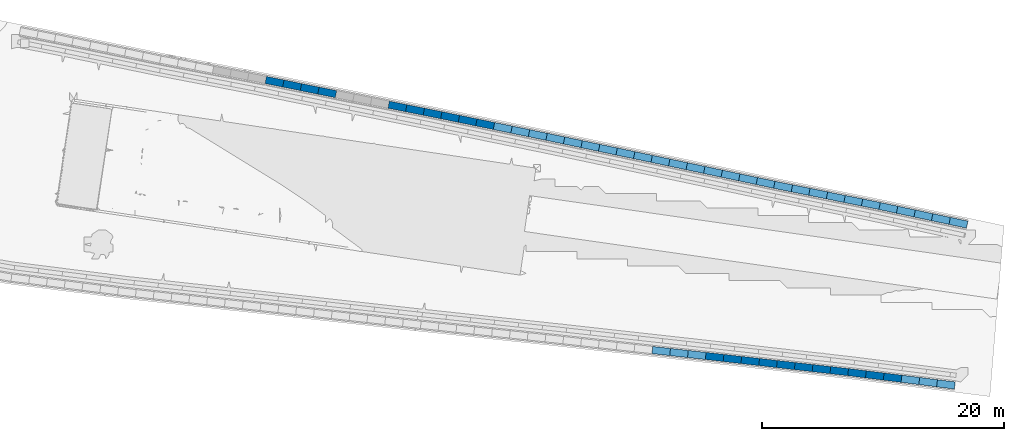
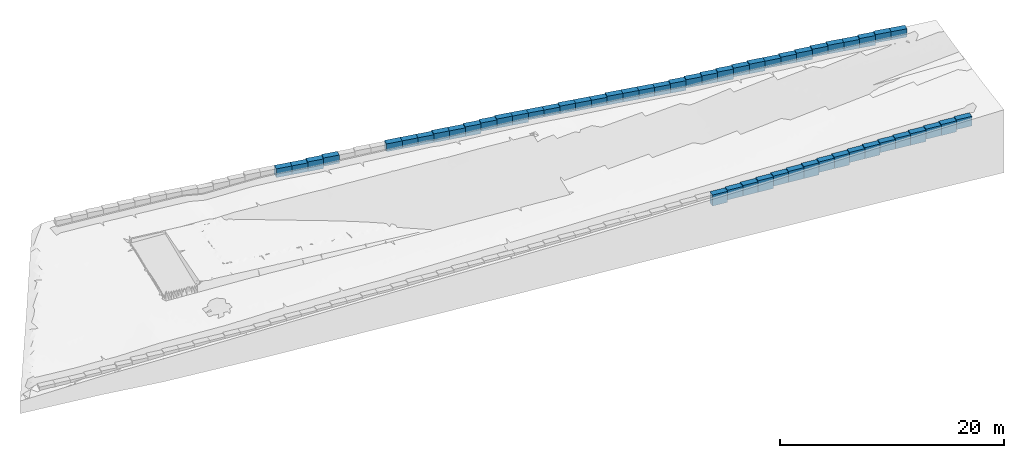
# Not in any storey, part 4 of 7: 54 walls.
"""IFC4 model written with IfcOpenShell, lengths in metres."""

from ifc_helpers import new_model, si_unit, direction, frame, origin_with_axes, place, context, subcontext, project, spatial, polyline, outline, extrude, material, element, save


model = new_model("IFC4")

# Units and contexts
model_context = context("Model", 3, precision=1e-05, world=origin_with_axes(), true_north=direction((0.0, 1.0)))
body_context = subcontext(model_context, "Body", "Model", "MODEL_VIEW")
ifc_project = project(units=[si_unit("VOLUMEUNIT", "CUBIC_METRE"), si_unit("LENGTHUNIT", "METRE"), si_unit("AREAUNIT", "SQUARE_METRE")], contexts=[model_context])

# Site
site_placement = place(None, origin_with_axes())
site = spatial("IfcSite", under=ifc_project, at=site_placement, Name="Lares · Rua das Mercês · artigo 4771")

# Walls
ifc_material = material(Name="Pedra natural · contenção conceptual", Category="stone")
wall_1_placement = place(site_placement, frame((0.0, 0.0, 13.75), z_axis=(0.0, 0.0, 1.0), x_axis=(1.0, -1.03767253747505e-17, 0.0)))
element("IfcWall", 1, at=wall_1_placement, inside=site, material=ifc_material, Name="Limite north · pedra 15", ObjectType="CONCEPT_STONE_RETAINING_EDGE", PredefinedType="USERDEFINED", context=body_context, shape_type="SweptSolid", body=[
    extrude(outline(polyline([(24.2510926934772, 19.6590356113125), (24.1319491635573, 19.0709838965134), (22.6789282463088, 19.3653764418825), (22.7980717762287, 19.9534281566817), (24.2510926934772, 19.6590356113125)])), origin_with_axes(), (0.0, 0.0, 1.0), 0.950000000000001),
])
wall_2_placement = place(site_placement, frame((0.0, 0.0, 13.75), z_axis=(0.0, 0.0, 1.0), x_axis=(1.0, -1.03767253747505e-17, 0.0)))
element("IfcWall", 2, at=wall_2_placement, inside=site, material=ifc_material, Name="Limite north · pedra 16", ObjectType="CONCEPT_STONE_RETAINING_EDGE", PredefinedType="USERDEFINED", context=body_context, shape_type="SweptSolid", body=[
    extrude(outline(polyline([(25.7041136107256, 19.3646430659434), (25.5849700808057, 18.7765913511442), (24.1319491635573, 19.0709838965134), (24.2510926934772, 19.6590356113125), (25.7041136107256, 19.3646430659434)])), origin_with_axes(), (0.0, 0.0, 1.0), 0.950000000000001),
])
wall_3_placement = place(site_placement, frame((0.0, 0.0, 13.75), z_axis=(0.0, 0.0, 1.0), x_axis=(1.0, -1.03767253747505e-17, 0.0)))
element("IfcWall", 3, at=wall_3_placement, inside=site, material=ifc_material, Name="Limite north · pedra 17", ObjectType="CONCEPT_STONE_RETAINING_EDGE", PredefinedType="USERDEFINED", context=body_context, shape_type="SweptSolid", body=[
    extrude(outline(polyline([(27.1571345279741, 19.0702505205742), (27.0379909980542, 18.4821988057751), (25.5849700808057, 18.7765913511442), (25.7041136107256, 19.3646430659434), (27.1571345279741, 19.0702505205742)])), origin_with_axes(), (0.0, 0.0, 1.0), 1.05),
])
wall_4_placement = place(site_placement, frame((0.0, 0.0, 14.0), z_axis=(0.0, 0.0, 1.0), x_axis=(1.0, -1.03767253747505e-17, 0.0)))
element("IfcWall", 4, at=wall_4_placement, inside=site, material=ifc_material, Name="Limite north · pedra 18", ObjectType="CONCEPT_STONE_RETAINING_EDGE", PredefinedType="USERDEFINED", context=body_context, shape_type="SweptSolid", body=[
    extrude(outline(polyline([(27.7664225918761, 18.9468043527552), (28.6097837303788, 18.7785527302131), (28.4923962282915, 18.1901479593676), (27.6485959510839, 18.3584871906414), (27.6477179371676, 18.3586637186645), (27.0379909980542, 18.4821988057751), (27.1571345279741, 19.0702505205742), (27.7664225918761, 18.9468043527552)])), origin_with_axes(), (0.0, 0.0, 1.0), 0.9),
])
wall_5_placement = place(site_placement, frame((0.0, 0.0, 14.25), z_axis=(0.0, 0.0, 1.0), x_axis=(1.0, -1.03767253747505e-17, 0.0)))
element("IfcWall", 5, at=wall_5_placement, inside=site, material=ifc_material, Name="Limite north · pedra 22", ObjectType="CONCEPT_STONE_RETAINING_EDGE", PredefinedType="USERDEFINED", context=body_context, shape_type="SweptSolid", body=[
    extrude(outline(polyline([(34.4253568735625, 17.6183384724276), (34.3079693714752, 17.0299337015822), (32.8540760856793, 17.3199872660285), (32.9714635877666, 17.908392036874), (34.4253568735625, 17.6183384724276)])), origin_with_axes(), (0.0, 0.0, 1.0), 0.850000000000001),
])
wall_6_placement = place(site_placement, frame((0.0, 0.0, 14.25), z_axis=(0.0, 0.0, 1.0), x_axis=(1.0, -1.03767253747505e-17, 0.0)))
element("IfcWall", 6, at=wall_6_placement, inside=site, material=ifc_material, Name="Limite north · pedra 23", ObjectType="CONCEPT_STONE_RETAINING_EDGE", PredefinedType="USERDEFINED", context=body_context, shape_type="SweptSolid", body=[
    extrude(outline(polyline([(35.8792501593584, 17.3282849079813), (35.7618626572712, 16.7398801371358), (34.3079693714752, 17.0299337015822), (34.4253568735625, 17.6183384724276), (35.8792501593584, 17.3282849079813)])), origin_with_axes(), (0.0, 0.0, 1.0), 0.850000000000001),
])
wall_7_placement = place(site_placement, frame((0.0, 0.0, 14.25), z_axis=(0.0, 0.0, 1.0), x_axis=(1.0, -1.03767253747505e-17, 0.0)))
element("IfcWall", 7, at=wall_7_placement, inside=site, material=ifc_material, Name="Limite north · pedra 24", ObjectType="CONCEPT_STONE_RETAINING_EDGE", PredefinedType="USERDEFINED", context=body_context, shape_type="SweptSolid", body=[
    extrude(outline(polyline([(36.58792841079, 17.1869026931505), (36.5894114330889, 17.1866029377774), (37.3338671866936, 17.0341750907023), (37.2135136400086, 16.4463698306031), (36.4697990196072, 16.5986459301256), (35.7618626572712, 16.7398801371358), (35.8792501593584, 17.3282849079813), (36.58792841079, 17.1869026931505)])), origin_with_axes(), (0.0, 0.0, 1.0), 0.850000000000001),
])
wall_8_placement = place(site_placement, frame((0.0, 0.0, 14.25), z_axis=(0.0, 0.0, 1.0), x_axis=(1.0, -1.03767253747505e-17, 0.0)))
element("IfcWall", 8, at=wall_8_placement, inside=site, material=ifc_material, Name="Limite north · pedra 25", ObjectType="CONCEPT_STONE_RETAINING_EDGE", PredefinedType="USERDEFINED", context=body_context, shape_type="SweptSolid", body=[
    extrude(outline(polyline([(38.7862791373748, 16.7367927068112), (38.6659255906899, 16.1489874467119), (37.2135136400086, 16.4463698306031), (37.3338671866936, 17.0341750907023), (38.7862791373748, 16.7367927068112)])), origin_with_axes(), (0.0, 0.0, 1.0), 0.950000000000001),
])
wall_9_placement = place(site_placement, frame((0.0, 0.0, 14.25), z_axis=(0.0, 0.0, 1.0), x_axis=(1.0, -1.03767253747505e-17, 0.0)))
element("IfcWall", 9, at=wall_9_placement, inside=site, material=ifc_material, Name="Limite north · pedra 26", ObjectType="CONCEPT_STONE_RETAINING_EDGE", PredefinedType="USERDEFINED", context=body_context, shape_type="SweptSolid", body=[
    extrude(outline(polyline([(40.2386910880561, 16.43941032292), (40.1183375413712, 15.8516050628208), (38.6659255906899, 16.1489874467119), (38.7862791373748, 16.7367927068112), (40.2386910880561, 16.43941032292)])), origin_with_axes(), (0.0, 0.0, 1.0), 0.950000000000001),
])
wall_10_placement = place(site_placement, frame((0.0, 0.0, 14.25), z_axis=(0.0, 0.0, 1.0), x_axis=(1.0, -1.03767253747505e-17, 0.0)))
element("IfcWall", 10, at=wall_10_placement, inside=site, material=ifc_material, Name="Limite north · pedra 27", ObjectType="CONCEPT_STONE_RETAINING_EDGE", PredefinedType="USERDEFINED", context=body_context, shape_type="SweptSolid", body=[
    extrude(outline(polyline([(41.6911030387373, 16.1420279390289), (41.5707494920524, 15.5542226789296), (40.1183375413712, 15.8516050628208), (40.2386910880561, 16.43941032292), (41.6911030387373, 16.1420279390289)])), origin_with_axes(), (0.0, 0.0, 1.0), 1.05),
])
wall_11_placement = place(site_placement, frame((0.0, 0.0, 14.5), z_axis=(0.0, 0.0, 1.0), x_axis=(1.0, -1.03767253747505e-17, 0.0)))
element("IfcWall", 11, at=wall_11_placement, inside=site, material=ifc_material, Name="Limite north · pedra 28", ObjectType="CONCEPT_STONE_RETAINING_EDGE", PredefinedType="USERDEFINED", context=body_context, shape_type="SweptSolid", body=[
    extrude(outline(polyline([(43.1435149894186, 15.8446455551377), (43.0231614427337, 15.2568402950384), (41.5707494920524, 15.5542226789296), (41.6911030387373, 16.1420279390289), (43.1435149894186, 15.8446455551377)])), origin_with_axes(), (0.0, 0.0, 1.0), 0.9),
])
wall_12_placement = place(site_placement, frame((0.0, 0.0, 14.5), z_axis=(0.0, 0.0, 1.0), x_axis=(1.0, -1.03767253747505e-17, 0.0)))
element("IfcWall", 12, at=wall_12_placement, inside=site, material=ifc_material, Name="Limite north · pedra 29", ObjectType="CONCEPT_STONE_RETAINING_EDGE", PredefinedType="USERDEFINED", context=body_context, shape_type="SweptSolid", body=[
    extrude(outline(polyline([(44.5959269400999, 15.5472631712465), (44.4755733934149, 14.9594579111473), (43.0231614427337, 15.2568402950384), (43.1435149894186, 15.8446455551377), (44.5959269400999, 15.5472631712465)])), origin_with_axes(), (0.0, 0.0, 1.0), 1.0),
])
wall_13_placement = place(site_placement, frame((0.0, 0.0, 14.5), z_axis=(0.0, 0.0, 1.0), x_axis=(1.0, -1.03767253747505e-17, 0.0)))
element("IfcWall", 13, at=wall_13_placement, inside=site, material=ifc_material, Name="Limite north · pedra 30", ObjectType="CONCEPT_STONE_RETAINING_EDGE", PredefinedType="USERDEFINED", context=body_context, shape_type="SweptSolid", body=[
    extrude(outline(polyline([(46.0483388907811, 15.2498807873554), (45.9279853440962, 14.6620755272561), (44.4755733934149, 14.9594579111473), (44.5959269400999, 15.5472631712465), (46.0483388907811, 15.2498807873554)])), origin_with_axes(), (0.0, 0.0, 1.0), 1.0),
])
wall_14_placement = place(site_placement, frame((0.0, 0.0, 14.75), z_axis=(0.0, 0.0, 1.0), x_axis=(1.0, -1.03767253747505e-17, 0.0)))
element("IfcWall", 14, at=wall_14_placement, inside=site, material=ifc_material, Name="Limite north · pedra 31", ObjectType="CONCEPT_STONE_RETAINING_EDGE", PredefinedType="USERDEFINED", context=body_context, shape_type="SweptSolid", body=[
    extrude(outline(polyline([(46.075830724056, 15.2442518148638), (46.0772721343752, 15.2439529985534), (47.5007435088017, 14.9452112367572), (47.3775071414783, 14.3580036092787), (45.9547561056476, 14.6565941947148), (45.9279853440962, 14.6620755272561), (46.0483388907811, 15.2498807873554), (46.075830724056, 15.2442518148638)])), origin_with_axes(), (0.0, 0.0, 1.0), 0.75),
])
wall_15_placement = place(site_placement, frame((0.0, 0.0, 14.75), z_axis=(0.0, 0.0, 1.0), x_axis=(1.0, -1.03767253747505e-17, 0.0)))
element("IfcWall", 15, at=wall_15_placement, inside=site, material=ifc_material, Name="Limite north · pedra 32", ObjectType="CONCEPT_STONE_RETAINING_EDGE", PredefinedType="USERDEFINED", context=body_context, shape_type="SweptSolid", body=[
    extrude(outline(polyline([(48.951678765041, 14.6407056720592), (48.8284423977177, 14.0534980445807), (47.3775071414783, 14.3580036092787), (47.5007435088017, 14.9452112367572), (48.951678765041, 14.6407056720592)])), origin_with_axes(), (0.0, 0.0, 1.0), 0.75),
])
wall_16_placement = place(site_placement, frame((0.0, 0.0, 14.75), z_axis=(0.0, 0.0, 1.0), x_axis=(1.0, -1.03767253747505e-17, 0.0)))
element("IfcWall", 16, at=wall_16_placement, inside=site, material=ifc_material, Name="Limite north · pedra 33", ObjectType="CONCEPT_STONE_RETAINING_EDGE", PredefinedType="USERDEFINED", context=body_context, shape_type="SweptSolid", body=[
    extrude(outline(polyline([(50.4026140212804, 14.3362001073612), (50.2793776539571, 13.7489924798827), (48.8284423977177, 14.0534980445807), (48.951678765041, 14.6407056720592), (50.4026140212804, 14.3362001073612)])), origin_with_axes(), (0.0, 0.0, 1.0), 0.850000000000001),
])
wall_17_placement = place(site_placement, frame((0.0, 0.0, 14.75), z_axis=(0.0, 0.0, 1.0), x_axis=(1.0, -1.03767253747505e-17, 0.0)))
element("IfcWall", 17, at=wall_17_placement, inside=site, material=ifc_material, Name="Limite north · pedra 34", ObjectType="CONCEPT_STONE_RETAINING_EDGE", PredefinedType="USERDEFINED", context=body_context, shape_type="SweptSolid", body=[
    extrude(outline(polyline([(51.8535492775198, 14.0316945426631), (51.7303129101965, 13.4444869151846), (50.2793776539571, 13.7489924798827), (50.4026140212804, 14.3362001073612), (51.8535492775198, 14.0316945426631)])), origin_with_axes(), (0.0, 0.0, 1.0), 0.850000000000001),
])
wall_18_placement = place(site_placement, frame((0.0, 0.0, 14.75), z_axis=(0.0, 0.0, 1.0), x_axis=(1.0, -1.03767253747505e-17, 0.0)))
element("IfcWall", 18, at=wall_18_placement, inside=site, material=ifc_material, Name="Limite north · pedra 35", ObjectType="CONCEPT_STONE_RETAINING_EDGE", PredefinedType="USERDEFINED", context=body_context, shape_type="SweptSolid", body=[
    extrude(outline(polyline([(53.3044845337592, 13.7271889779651), (53.1812481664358, 13.1399813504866), (51.7303129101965, 13.4444869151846), (51.8535492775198, 14.0316945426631), (53.3044845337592, 13.7271889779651)])), origin_with_axes(), (0.0, 0.0, 1.0), 0.850000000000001),
])
wall_19_placement = place(site_placement, frame((0.0, 0.0, 14.75), z_axis=(0.0, 0.0, 1.0), x_axis=(1.0, -1.03767253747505e-17, 0.0)))
element("IfcWall", 19, at=wall_19_placement, inside=site, material=ifc_material, Name="Limite north · pedra 36", ObjectType="CONCEPT_STONE_RETAINING_EDGE", PredefinedType="USERDEFINED", context=body_context, shape_type="SweptSolid", body=[
    extrude(outline(polyline([(54.7554197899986, 13.4226834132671), (54.6321834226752, 12.8354757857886), (53.1812481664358, 13.1399813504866), (53.3044845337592, 13.7271889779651), (54.7554197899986, 13.4226834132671)])), origin_with_axes(), (0.0, 0.0, 1.0), 0.950000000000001),
])
wall_20_placement = place(site_placement, frame((0.0, 0.0, 14.75), z_axis=(0.0, 0.0, 1.0), x_axis=(1.0, -1.03767253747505e-17, 0.0)))
element("IfcWall", 20, at=wall_20_placement, inside=site, material=ifc_material, Name="Limite north · pedra 37", ObjectType="CONCEPT_STONE_RETAINING_EDGE", PredefinedType="USERDEFINED", context=body_context, shape_type="SweptSolid", body=[
    extrude(outline(polyline([(56.206355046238, 13.1181778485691), (56.0831186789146, 12.5309702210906), (54.6321834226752, 12.8354757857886), (54.7554197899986, 13.4226834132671), (56.206355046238, 13.1181778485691)])), origin_with_axes(), (0.0, 0.0, 1.0), 0.950000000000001),
])
wall_21_placement = place(site_placement, frame((0.0, 0.0, 14.75), z_axis=(0.0, 0.0, 1.0), x_axis=(1.0, -1.03767253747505e-17, 0.0)))
element("IfcWall", 21, at=wall_21_placement, inside=site, material=ifc_material, Name="Limite north · pedra 38", ObjectType="CONCEPT_STONE_RETAINING_EDGE", PredefinedType="USERDEFINED", context=body_context, shape_type="SweptSolid", body=[
    extrude(outline(polyline([(56.4763380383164, 13.0615169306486), (56.4767890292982, 13.0614219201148), (57.6573591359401, 12.8117632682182), (57.5332207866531, 12.2247456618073), (56.3528761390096, 12.4743566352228), (56.0831186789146, 12.5309702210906), (56.206355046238, 13.1181778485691), (56.4763380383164, 13.0615169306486)])), origin_with_axes(), (0.0, 0.0, 1.0), 0.950000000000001),
])
wall_22_placement = place(site_placement, frame((0.0, 0.0, 14.75), z_axis=(0.0, 0.0, 1.0), x_axis=(1.0, -1.03767253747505e-17, 0.0)))
element("IfcWall", 22, at=wall_22_placement, inside=site, material=ifc_material, Name="Limite north · pedra 39", ObjectType="CONCEPT_STONE_RETAINING_EDGE", PredefinedType="USERDEFINED", context=body_context, shape_type="SweptSolid", body=[
    extrude(outline(polyline([(59.1078248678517, 12.5050289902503), (58.9836865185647, 11.9180113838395), (57.5332207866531, 12.2247456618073), (57.6573591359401, 12.8117632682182), (59.1078248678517, 12.5050289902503)])), origin_with_axes(), (0.0, 0.0, 1.0), 0.950000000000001),
])
wall_23_placement = place(site_placement, frame((0.0, 0.0, 14.75), z_axis=(0.0, 0.0, 1.0), x_axis=(1.0, -1.03767253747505e-17, 0.0)))
element("IfcWall", 23, at=wall_23_placement, inside=site, material=ifc_material, Name="Limite north · pedra 40", ObjectType="CONCEPT_STONE_RETAINING_EDGE", PredefinedType="USERDEFINED", context=body_context, shape_type="SweptSolid", body=[
    extrude(outline(polyline([(60.5582905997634, 12.1982947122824), (60.4341522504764, 11.6112771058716), (58.9836865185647, 11.9180113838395), (59.1078248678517, 12.5050289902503), (60.5582905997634, 12.1982947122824)])), origin_with_axes(), (0.0, 0.0, 1.0), 1.05),
])
wall_24_placement = place(site_placement, frame((0.0, 0.0, 15.0), z_axis=(0.0, 0.0, 1.0), x_axis=(1.0, -1.03767253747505e-17, 0.0)))
element("IfcWall", 24, at=wall_24_placement, inside=site, material=ifc_material, Name="Limite north · pedra 41", ObjectType="CONCEPT_STONE_RETAINING_EDGE", PredefinedType="USERDEFINED", context=body_context, shape_type="SweptSolid", body=[
    extrude(outline(polyline([(62.0087563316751, 11.8915604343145), (61.8846179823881, 11.3045428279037), (60.4341522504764, 11.6112771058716), (60.5582905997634, 12.1982947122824), (62.0087563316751, 11.8915604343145)])), origin_with_axes(), (0.0, 0.0, 1.0), 0.9),
])
wall_25_placement = place(site_placement, frame((0.0, 0.0, 15.0), z_axis=(0.0, 0.0, 1.0), x_axis=(1.0, -1.03767253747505e-17, 0.0)))
element("IfcWall", 25, at=wall_25_placement, inside=site, material=ifc_material, Name="Limite north · pedra 42", ObjectType="CONCEPT_STONE_RETAINING_EDGE", PredefinedType="USERDEFINED", context=body_context, shape_type="SweptSolid", body=[
    extrude(outline(polyline([(63.4592220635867, 11.5848261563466), (63.3350837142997, 10.9978085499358), (61.8846179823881, 11.3045428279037), (62.0087563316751, 11.8915604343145), (63.4592220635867, 11.5848261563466)])), origin_with_axes(), (0.0, 0.0, 1.0), 1.0),
])
wall_26_placement = place(site_placement, frame((0.0, 0.0, 15.0), z_axis=(0.0, 0.0, 1.0), x_axis=(1.0, -1.03767253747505e-17, 0.0)))
element("IfcWall", 26, at=wall_26_placement, inside=site, material=ifc_material, Name="Limite north · pedra 43", ObjectType="CONCEPT_STONE_RETAINING_EDGE", PredefinedType="USERDEFINED", context=body_context, shape_type="SweptSolid", body=[
    extrude(outline(polyline([(64.9096877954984, 11.2780918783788), (64.7855494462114, 10.6910742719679), (63.3350837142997, 10.9978085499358), (63.4592220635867, 11.5848261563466), (64.9096877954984, 11.2780918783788)])), origin_with_axes(), (0.0, 0.0, 1.0), 1.1),
])
wall_27_placement = place(site_placement, frame((0.0, 0.0, 15.25), z_axis=(0.0, 0.0, 1.0), x_axis=(1.0, -1.03767253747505e-17, 0.0)))
element("IfcWall", 27, at=wall_27_placement, inside=site, material=ifc_material, Name="Limite north · pedra 44", ObjectType="CONCEPT_STONE_RETAINING_EDGE", PredefinedType="USERDEFINED", context=body_context, shape_type="SweptSolid", body=[
    extrude(outline(polyline([(65.1675226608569, 11.2235667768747), (66.3597083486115, 10.9831100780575), (66.2410808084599, 10.3949540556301), (65.0475160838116, 10.635688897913), (65.044760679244, 10.6362581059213), (64.7855494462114, 10.6910742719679), (64.9096877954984, 11.2780918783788), (65.1675226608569, 11.2235667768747)])), origin_with_axes(), (0.0, 0.0, 1.0), 0.949999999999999),
])
wall_28_placement = place(site_placement, frame((0.0, 0.0, 15.25), z_axis=(0.0, 0.0, 1.0), x_axis=(1.0, -1.03767253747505e-17, 0.0)))
element("IfcWall", 28, at=wall_28_placement, inside=site, material=ifc_material, Name="Limite north · pedra 45", ObjectType="CONCEPT_STONE_RETAINING_EDGE", PredefinedType="USERDEFINED", context=body_context, shape_type="SweptSolid", body=[
    extrude(outline(polyline([(67.8129870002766, 10.6899924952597), (67.6943594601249, 10.1018364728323), (66.2410808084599, 10.3949540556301), (66.3597083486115, 10.9831100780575), (67.8129870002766, 10.6899924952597)])), origin_with_axes(), (0.0, 0.0, 1.0), 1.05),
])
wall_29_placement = place(site_placement, frame((0.0, 0.0, 15.5), z_axis=(0.0, 0.0, 1.0), x_axis=(1.0, -1.03767253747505e-17, 0.0)))
element("IfcWall", 29, at=wall_29_placement, inside=site, material=ifc_material, Name="Limite north · pedra 46", ObjectType="CONCEPT_STONE_RETAINING_EDGE", PredefinedType="USERDEFINED", context=body_context, shape_type="SweptSolid", body=[
    extrude(outline(polyline([(69.2662656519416, 10.3968749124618), (69.1476381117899, 9.80871889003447), (67.6943594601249, 10.1018364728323), (67.8129870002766, 10.6899924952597), (69.2662656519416, 10.3968749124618)])), origin_with_axes(), (0.0, 0.0, 1.0), 0.800000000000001),
])
wall_30_placement = place(site_placement, frame((0.0, 0.0, 15.5), z_axis=(0.0, 0.0, 1.0), x_axis=(1.0, -1.03767253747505e-17, 0.0)))
element("IfcWall", 30, at=wall_30_placement, inside=site, material=ifc_material, Name="Limite north · pedra 47", ObjectType="CONCEPT_STONE_RETAINING_EDGE", PredefinedType="USERDEFINED", context=body_context, shape_type="SweptSolid", body=[
    extrude(outline(polyline([(70.7195443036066, 10.103757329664), (70.6009167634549, 9.51560130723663), (69.1476381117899, 9.80871889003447), (69.2662656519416, 10.3968749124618), (70.7195443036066, 10.103757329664)])), origin_with_axes(), (0.0, 0.0, 1.0), 0.900000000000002),
])
wall_31_placement = place(site_placement, frame((0.0, 0.0, 15.5), z_axis=(0.0, 0.0, 1.0), x_axis=(1.0, -1.03767253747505e-17, 0.0)))
element("IfcWall", 31, at=wall_31_placement, inside=site, material=ifc_material, Name="Limite north · pedra 48", ObjectType="CONCEPT_STONE_RETAINING_EDGE", PredefinedType="USERDEFINED", context=body_context, shape_type="SweptSolid", body=[
    extrude(outline(polyline([(72.1728229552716, 9.81063974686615), (72.0541954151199, 9.2224837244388), (70.6009167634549, 9.51560130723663), (70.7195443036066, 10.103757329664), (72.1728229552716, 9.81063974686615)])), origin_with_axes(), (0.0, 0.0, 1.0), 1.0),
])
wall_32_placement = place(site_placement, frame((0.0, 0.0, 15.75), z_axis=(0.0, 0.0, 1.0), x_axis=(1.0, -1.03767253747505e-17, 0.0)))
element("IfcWall", 32, at=wall_32_placement, inside=site, material=ifc_material, Name="Limite north · pedra 49", ObjectType="CONCEPT_STONE_RETAINING_EDGE", PredefinedType="USERDEFINED", context=body_context, shape_type="SweptSolid", body=[
    extrude(outline(polyline([(73.4893930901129, 9.54509545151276), (73.4924212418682, 9.54446843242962), (73.6288382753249, 9.515487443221), (73.5041544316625, 8.92858545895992), (73.3692498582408, 8.95724513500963), (72.0541954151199, 9.2224837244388), (72.1728229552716, 9.81063974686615), (73.4893930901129, 9.54509545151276)])), origin_with_axes(), (0.0, 0.0, 1.0), 0.850000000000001),
])
wall_33_placement = place(site_placement, frame((0.0, 0.0, 15.75), z_axis=(0.0, 0.0, 1.0), x_axis=(1.0, -1.03767253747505e-17, 0.0)))
element("IfcWall", 33, at=wall_33_placement, inside=site, material=ifc_material, Name="Limite north · pedra 50", ObjectType="CONCEPT_STONE_RETAINING_EDGE", PredefinedType="USERDEFINED", context=body_context, shape_type="SweptSolid", body=[
    extrude(outline(polyline([(75.079018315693, 9.2074052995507), (74.9543344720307, 8.62050331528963), (73.5041544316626, 8.92858545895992), (73.6288382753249, 9.515487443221), (75.079018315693, 9.2074052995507)])), origin_with_axes(), (0.0, 0.0, 1.0), 0.949999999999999),
])
wall_34_placement = place(site_placement, frame((0.0, 0.0, 15.75), z_axis=(0.0, 0.0, 1.0), x_axis=(1.0, -1.03767253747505e-17, 0.0)))
element("IfcWall", 34, at=wall_34_placement, inside=site, material=ifc_material, Name="Limite north · pedra 51", ObjectType="CONCEPT_STONE_RETAINING_EDGE", PredefinedType="USERDEFINED", context=body_context, shape_type="SweptSolid", body=[
    extrude(outline(polyline([(76.5291983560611, 8.89932315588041), (76.4045145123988, 8.31242117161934), (74.9543344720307, 8.62050331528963), (75.079018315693, 9.2074052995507), (76.5291983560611, 8.89932315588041)])), origin_with_axes(), (0.0, 0.0, 1.0), 0.949999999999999),
])
wall_35_placement = place(site_placement, frame((0.0, 0.0, 15.75), z_axis=(0.0, 0.0, 1.0), x_axis=(1.0, -1.03767253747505e-17, 0.0)))
element("IfcWall", 35, at=wall_35_placement, inside=site, material=ifc_material, Name="Limite north · pedra 52", ObjectType="CONCEPT_STONE_RETAINING_EDGE", PredefinedType="USERDEFINED", context=body_context, shape_type="SweptSolid", body=[
    extrude(outline(polyline([(77.9793783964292, 8.59124101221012), (77.8546945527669, 8.00433902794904), (76.4045145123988, 8.31242117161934), (76.5291983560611, 8.89932315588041), (77.9793783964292, 8.59124101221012)])), origin_with_axes(), (0.0, 0.0, 1.0), 1.05),
])
wall_36_placement = place(site_placement, frame((0.0, 0.0, 16.0), z_axis=(0.0, 0.0, 1.0), x_axis=(1.0, -1.03767253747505e-17, 0.0)))
element("IfcWall", 36, at=wall_36_placement, inside=site, material=ifc_material, Name="Limite north · pedra 53", ObjectType="CONCEPT_STONE_RETAINING_EDGE", PredefinedType="USERDEFINED", context=body_context, shape_type="SweptSolid", body=[
    extrude(outline(polyline([(79.4295584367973, 8.28315886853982), (79.304874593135, 7.69625688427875), (77.8546945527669, 8.00433902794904), (77.9793783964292, 8.59124101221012), (79.4295584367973, 8.28315886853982)])), origin_with_axes(), (0.0, 0.0, 1.0), 0.900000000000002),
])
wall_37_placement = place(site_placement, frame((0.0, 0.0, 16.0), z_axis=(0.0, 0.0, 1.0), x_axis=(1.0, -1.03767253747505e-17, 0.0)))
element("IfcWall", 37, at=wall_37_placement, inside=site, material=ifc_material, Name="Limite north · pedra 54", ObjectType="CONCEPT_STONE_RETAINING_EDGE", PredefinedType="USERDEFINED", context=body_context, shape_type="SweptSolid", body=[
    extrude(outline(polyline([(80.8797384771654, 7.97507672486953), (80.7550546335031, 7.38817474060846), (79.304874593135, 7.69625688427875), (79.4295584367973, 8.28315886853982), (80.8797384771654, 7.97507672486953)])), origin_with_axes(), (0.0, 0.0, 1.0), 0.900000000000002),
])
wall_38_placement = place(site_placement, frame((0.0, 0.0, 13.0), z_axis=(0.0, 0.0, 1.0), x_axis=(1.0, -1.03767253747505e-17, 0.0)))
element("IfcWall", 38, at=wall_38_placement, inside=site, material=ifc_material, Name="Limite south · pedra 45", ObjectType="CONCEPT_STONE_RETAINING_EDGE", PredefinedType="USERDEFINED", context=body_context, shape_type="SweptSolid", body=[
    extrude(outline(polyline([(56.2504408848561, -2.56709334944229), (56.1842255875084, -3.16342843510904), (54.7097027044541, -2.99970174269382), (54.7759180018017, -2.40336665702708), (56.2504408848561, -2.56709334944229)])), origin_with_axes(), (0.0, 0.0, 1.0), 1.2),
])
wall_39_placement = place(site_placement, frame((0.0, 0.0, 13.25), z_axis=(0.0, 0.0, 1.0), x_axis=(1.0, -1.03767253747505e-17, 0.0)))
element("IfcWall", 39, at=wall_39_placement, inside=site, material=ifc_material, Name="Limite south · pedra 46", ObjectType="CONCEPT_STONE_RETAINING_EDGE", PredefinedType="USERDEFINED", context=body_context, shape_type="SweptSolid", body=[
    extrude(outline(polyline([(57.7249637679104, -2.73082004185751), (57.6587484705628, -3.32715512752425), (56.1842255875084, -3.16342843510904), (56.2504408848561, -2.56709334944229), (57.7249637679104, -2.73082004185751)])), origin_with_axes(), (0.0, 0.0, 1.0), 1.05),
])
wall_40_placement = place(site_placement, frame((0.0, 0.0, 13.25), z_axis=(0.0, 0.0, 1.0), x_axis=(1.0, -1.03767253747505e-17, 0.0)))
element("IfcWall", 40, at=wall_40_placement, inside=site, material=ifc_material, Name="Limite south · pedra 47", ObjectType="CONCEPT_STONE_RETAINING_EDGE", PredefinedType="USERDEFINED", context=body_context, shape_type="SweptSolid", body=[
    extrude(outline(polyline([(59.1994866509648, -2.89454673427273), (59.1332713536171, -3.49088181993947), (57.6587484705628, -3.32715512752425), (57.7249637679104, -2.73082004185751), (59.1994866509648, -2.89454673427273)])), origin_with_axes(), (0.0, 0.0, 1.0), 1.15),
])
wall_41_placement = place(site_placement, frame((0.0, 0.0, 13.25), z_axis=(0.0, 0.0, 1.0), x_axis=(1.0, -1.03767253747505e-17, 0.0)))
element("IfcWall", 41, at=wall_41_placement, inside=site, material=ifc_material, Name="Limite south · pedra 48", ObjectType="CONCEPT_STONE_RETAINING_EDGE", PredefinedType="USERDEFINED", context=body_context, shape_type="SweptSolid", body=[
    extrude(outline(polyline([(59.3672239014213, -2.91317178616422), (59.3680080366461, -2.91325989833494), (60.6744074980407, -3.06179818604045), (60.6066239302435, -3.65795704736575), (59.3006164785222, -3.50946333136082), (59.1332713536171, -3.49088181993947), (59.1994866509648, -2.89454673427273), (59.3672239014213, -2.91317178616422)])), origin_with_axes(), (0.0, 0.0, 1.0), 1.25),
])
wall_42_placement = place(site_placement, frame((0.0, 0.0, 13.5), z_axis=(0.0, 0.0, 1.0), x_axis=(1.0, -1.03767253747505e-17, 0.0)))
element("IfcWall", 42, at=wall_42_placement, inside=site, material=ifc_material, Name="Limite south · pedra 49", ObjectType="CONCEPT_STONE_RETAINING_EDGE", PredefinedType="USERDEFINED", context=body_context, shape_type="SweptSolid", body=[
    extrude(outline(polyline([(62.1484946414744, -3.22940264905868), (62.0807110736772, -3.82556151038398), (60.6066239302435, -3.65795704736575), (60.6744074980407, -3.06179818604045), (62.1484946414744, -3.22940264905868)])), origin_with_axes(), (0.0, 0.0, 1.0), 1.1),
])
wall_43_placement = place(site_placement, frame((0.0, 0.0, 13.5), z_axis=(0.0, 0.0, 1.0), x_axis=(1.0, -1.03767253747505e-17, 0.0)))
element("IfcWall", 43, at=wall_43_placement, inside=site, material=ifc_material, Name="Limite south · pedra 50", ObjectType="CONCEPT_STONE_RETAINING_EDGE", PredefinedType="USERDEFINED", context=body_context, shape_type="SweptSolid", body=[
    extrude(outline(polyline([(63.6225817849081, -3.39700711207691), (63.5547982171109, -3.9931659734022), (62.0807110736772, -3.82556151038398), (62.1484946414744, -3.22940264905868), (63.6225817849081, -3.39700711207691)])), origin_with_axes(), (0.0, 0.0, 1.0), 1.2),
])
wall_44_placement = place(site_placement, frame((0.0, 0.0, 13.5), z_axis=(0.0, 0.0, 1.0), x_axis=(1.0, -1.03767253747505e-17, 0.0)))
element("IfcWall", 44, at=wall_44_placement, inside=site, material=ifc_material, Name="Limite south · pedra 51", ObjectType="CONCEPT_STONE_RETAINING_EDGE", PredefinedType="USERDEFINED", context=body_context, shape_type="SweptSolid", body=[
    extrude(outline(polyline([(65.0966689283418, -3.56461157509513), (65.0288853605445, -4.16077043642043), (63.5547982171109, -3.9931659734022), (63.6225817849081, -3.39700711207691), (65.0966689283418, -3.56461157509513)])), origin_with_axes(), (0.0, 0.0, 1.0), 1.3),
])
wall_45_placement = place(site_placement, frame((0.0, 0.0, 13.75), z_axis=(0.0, 0.0, 1.0), x_axis=(1.0, -1.03767253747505e-17, 0.0)))
element("IfcWall", 45, at=wall_45_placement, inside=site, material=ifc_material, Name="Limite south · pedra 52", ObjectType="CONCEPT_STONE_RETAINING_EDGE", PredefinedType="USERDEFINED", context=body_context, shape_type="SweptSolid", body=[
    extrude(outline(polyline([(66.5707560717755, -3.73221603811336), (66.5029725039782, -4.32837489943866), (65.0288853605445, -4.16077043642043), (65.0966689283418, -3.56461157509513), (66.5707560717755, -3.73221603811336)])), origin_with_axes(), (0.0, 0.0, 1.0), 1.15),
])
wall_46_placement = place(site_placement, frame((0.0, 0.0, 13.75), z_axis=(0.0, 0.0, 1.0), x_axis=(1.0, -1.03767253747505e-17, 0.0)))
element("IfcWall", 46, at=wall_46_placement, inside=site, material=ifc_material, Name="Limite south · pedra 53", ObjectType="CONCEPT_STONE_RETAINING_EDGE", PredefinedType="USERDEFINED", context=body_context, shape_type="SweptSolid", body=[
    extrude(outline(polyline([(68.0448432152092, -3.89982050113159), (67.9770596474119, -4.49597936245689), (66.5029725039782, -4.32837489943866), (66.5707560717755, -3.73221603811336), (68.0448432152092, -3.89982050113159)])), origin_with_axes(), (0.0, 0.0, 1.0), 1.25),
])
wall_47_placement = place(site_placement, frame((0.0, 0.0, 14.0), z_axis=(0.0, 0.0, 1.0), x_axis=(1.0, -1.03767253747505e-17, 0.0)))
element("IfcWall", 47, at=wall_47_placement, inside=site, material=ifc_material, Name="Limite south · pedra 54", ObjectType="CONCEPT_STONE_RETAINING_EDGE", PredefinedType="USERDEFINED", context=body_context, shape_type="SweptSolid", body=[
    extrude(outline(polyline([(69.5189303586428, -4.06742496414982), (69.4511467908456, -4.66358382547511), (67.9770596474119, -4.49597936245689), (68.0448432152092, -3.89982050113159), (69.5189303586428, -4.06742496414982)])), origin_with_axes(), (0.0, 0.0, 1.0), 1.1),
])
wall_48_placement = place(site_placement, frame((0.0, 0.0, 14.0), z_axis=(0.0, 0.0, 1.0), x_axis=(1.0, -1.03767253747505e-17, 0.0)))
element("IfcWall", 48, at=wall_48_placement, inside=site, material=ifc_material, Name="Limite south · pedra 55", ObjectType="CONCEPT_STONE_RETAINING_EDGE", PredefinedType="USERDEFINED", context=body_context, shape_type="SweptSolid", body=[
    extrude(outline(polyline([(70.9930175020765, -4.23502942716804), (70.9252339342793, -4.83118828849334), (69.4511467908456, -4.66358382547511), (69.5189303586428, -4.06742496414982), (70.9930175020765, -4.23502942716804)])), origin_with_axes(), (0.0, 0.0, 1.0), 1.2),
])
wall_49_placement = place(site_placement, frame((0.0, 0.0, 14.25), z_axis=(0.0, 0.0, 1.0), x_axis=(1.0, -1.03767253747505e-17, 0.0)))
element("IfcWall", 49, at=wall_49_placement, inside=site, material=ifc_material, Name="Limite south · pedra 56", ObjectType="CONCEPT_STONE_RETAINING_EDGE", PredefinedType="USERDEFINED", context=body_context, shape_type="SweptSolid", body=[
    extrude(outline(polyline([(71.3824820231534, -4.27931174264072), (71.3860307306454, -4.27973665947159), (72.469107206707, -4.41597150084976), (72.3942262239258, -5.0112805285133), (71.3129228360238, -4.87526871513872), (70.9252339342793, -4.83118828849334), (70.9930175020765, -4.23502942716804), (71.3824820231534, -4.27931174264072)])), origin_with_axes(), (0.0, 0.0, 1.0), 1.05),
])
wall_50_placement = place(site_placement, frame((0.0, 0.0, 14.25), z_axis=(0.0, 0.0, 1.0), x_axis=(1.0, -1.03767253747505e-17, 0.0)))
element("IfcWall", 50, at=wall_50_placement, inside=site, material=ifc_material, Name="Limite south · pedra 57", ObjectType="CONCEPT_STONE_RETAINING_EDGE", PredefinedType="USERDEFINED", context=body_context, shape_type="SweptSolid", body=[
    extrude(outline(polyline([(73.9410930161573, -4.60112532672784), (73.866212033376, -5.19643435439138), (72.3942262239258, -5.0112805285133), (72.469107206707, -4.41597150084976), (73.9410930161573, -4.60112532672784)])), origin_with_axes(), (0.0, 0.0, 1.0), 1.15),
])
wall_51_placement = place(site_placement, frame((0.0, 0.0, 14.25), z_axis=(0.0, 0.0, 1.0), x_axis=(1.0, -1.03767253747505e-17, 0.0)))
element("IfcWall", 51, at=wall_51_placement, inside=site, material=ifc_material, Name="Limite south · pedra 58", ObjectType="CONCEPT_STONE_RETAINING_EDGE", PredefinedType="USERDEFINED", context=body_context, shape_type="SweptSolid", body=[
    extrude(outline(polyline([(75.4130788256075, -4.78627915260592), (75.3381978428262, -5.38158818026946), (73.866212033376, -5.19643435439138), (73.9410930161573, -4.60112532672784), (75.4130788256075, -4.78627915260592)])), origin_with_axes(), (0.0, 0.0, 1.0), 1.25),
])
wall_52_placement = place(site_placement, frame((0.0, 0.0, 14.5), z_axis=(0.0, 0.0, 1.0), x_axis=(1.0, -1.03767253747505e-17, 0.0)))
element("IfcWall", 52, at=wall_52_placement, inside=site, material=ifc_material, Name="Limite south · pedra 59", ObjectType="CONCEPT_STONE_RETAINING_EDGE", PredefinedType="USERDEFINED", context=body_context, shape_type="SweptSolid", body=[
    extrude(outline(polyline([(76.8850646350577, -4.971432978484), (76.8101836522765, -5.56674200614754), (75.3381978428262, -5.38158818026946), (75.4130788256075, -4.78627915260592), (76.8850646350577, -4.971432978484)])), origin_with_axes(), (0.0, 0.0, 1.0), 1.1),
])
wall_53_placement = place(site_placement, frame((0.0, 0.0, 14.5), z_axis=(0.0, 0.0, 1.0), x_axis=(1.0, -1.03767253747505e-17, 0.0)))
element("IfcWall", 53, at=wall_53_placement, inside=site, material=ifc_material, Name="Limite south · pedra 60", ObjectType="CONCEPT_STONE_RETAINING_EDGE", PredefinedType="USERDEFINED", context=body_context, shape_type="SweptSolid", body=[
    extrude(outline(polyline([(78.3570504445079, -5.15658680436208), (78.2821694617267, -5.75189583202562), (76.8101836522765, -5.56674200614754), (76.8850646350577, -4.971432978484), (78.3570504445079, -5.15658680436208)])), origin_with_axes(), (0.0, 0.0, 1.0), 1.2),
])
wall_54_placement = place(site_placement, frame((0.0, 0.0, 14.75), z_axis=(0.0, 0.0, 1.0), x_axis=(1.0, -1.03767253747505e-17, 0.0)))
element("IfcWall", 54, at=wall_54_placement, inside=site, material=ifc_material, Name="Limite south · pedra 61", ObjectType="CONCEPT_STONE_RETAINING_EDGE", PredefinedType="USERDEFINED", context=body_context, shape_type="SweptSolid", body=[
    extrude(outline(polyline([(79.8290362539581, -5.34174063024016), (79.7541552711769, -5.9370496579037), (78.2821694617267, -5.75189583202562), (78.3570504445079, -5.15658680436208), (79.8290362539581, -5.34174063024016)])), origin_with_axes(), (0.0, 0.0, 1.0), 1.05),
])

save(model, "model.ifc")
